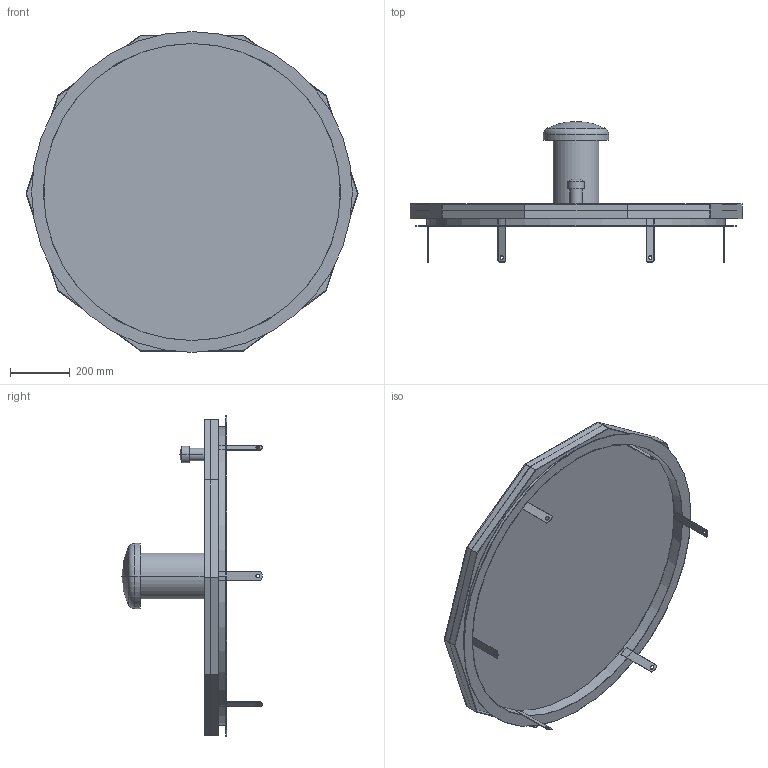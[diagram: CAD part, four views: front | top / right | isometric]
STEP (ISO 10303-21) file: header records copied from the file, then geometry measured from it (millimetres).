
FILE_DESCRIPTION((''),'2;1');
FILE_NAME('017_000107','2018-09-06T',('wj'),('HUBER SE'),'PRO/ENGINEER BY PARAMETRIC TECHNOLOGY CORPORATION, 2017170','PRO/ENGINEER BY PARAMETRIC TECHNOLOGY CORPORATION, 2017170','');
FILE_SCHEMA(('AUTOMOTIVE_DESIGN { 1 0 10303 214 1 1 1 1 }'));
Length unit declared in the file: millimetre
Products named in the file (1): 017_000107
Bounding box: 1112.45 x 471.25 x 1075 mm (x, y, z)
Volume: 9727956.4 mm3; surface area: 4683292.5 mm2
Topology: 2 solids, 3 shells, 108 faces, 288 edges, 188 vertices
Faces by surface type: plane 70, cylinder 32, sphere 4, torus 2
Entity records: 3967 total; most frequent: DIRECTION 597, CARTESIAN_POINT 591, ORIENTED_EDGE 568, EDGE_CURVE 284, VECTOR 200, LINE 200, AXIS2_PLACEMENT_3D 197, VERTEX_POINT 188
